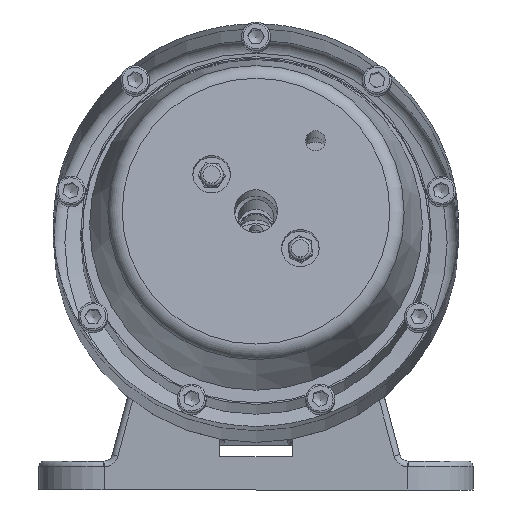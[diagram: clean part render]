
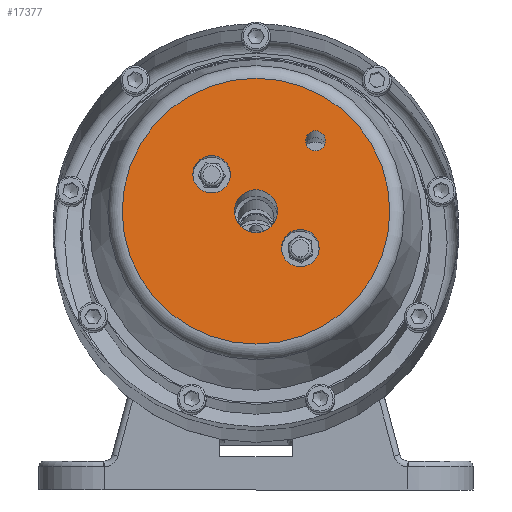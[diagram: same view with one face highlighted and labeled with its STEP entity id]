
A CAD part, front view. The second image highlights one B-rep face of the part: STEP entity #17377.
In plain terms, the highlighted planar face has unit normal (0, -0.993, 0.119).
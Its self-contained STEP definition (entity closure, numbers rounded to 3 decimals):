
#661=FACE_BOUND('',#4759,.T.);
#662=FACE_BOUND('',#4760,.T.);
#663=FACE_BOUND('',#4761,.T.);
#664=FACE_BOUND('',#4762,.T.);
#3301=PLANE('',#18448);
#3828=FACE_OUTER_BOUND('',#4758,.T.);
#4758=EDGE_LOOP('',(#11593,#11594));
#4759=EDGE_LOOP('',(#11595,#11596));
#4760=EDGE_LOOP('',(#11597,#11598));
#4761=EDGE_LOOP('',(#11599,#11600));
#4762=EDGE_LOOP('',(#11601,#11602));
#5780=CIRCLE('',#18335,3.459);
#5781=CIRCLE('',#18336,3.459);
#5784=CIRCLE('',#18341,6.5);
#5785=CIRCLE('',#18342,6.5);
#5800=CIRCLE('',#18362,6.5);
#5801=CIRCLE('',#18363,6.5);
#5840=CIRCLE('',#18421,7.475);
#5841=CIRCLE('',#18422,7.475);
#5861=CIRCLE('',#18445,46.251);
#5862=CIRCLE('',#18446,46.251);
#6926=VERTEX_POINT('',#25892);
#6927=VERTEX_POINT('',#25893);
#6936=VERTEX_POINT('',#25915);
#6937=VERTEX_POINT('',#25916);
#6959=VERTEX_POINT('',#26013);
#6960=VERTEX_POINT('',#26014);
#6999=VERTEX_POINT('',#26123);
#7000=VERTEX_POINT('',#26124);
#7016=VERTEX_POINT('',#26167);
#7017=VERTEX_POINT('',#26168);
#8713=EDGE_CURVE('',#6926,#6927,#5780,.T.);
#8714=EDGE_CURVE('',#6927,#6926,#5781,.T.);
#8724=EDGE_CURVE('',#6936,#6937,#5784,.T.);
#8725=EDGE_CURVE('',#6937,#6936,#5785,.T.);
#8752=EDGE_CURVE('',#6959,#6960,#5800,.T.);
#8753=EDGE_CURVE('',#6960,#6959,#5801,.T.);
#8803=EDGE_CURVE('',#6999,#7000,#5840,.T.);
#8804=EDGE_CURVE('',#7000,#6999,#5841,.T.);
#8827=EDGE_CURVE('',#7016,#7017,#5861,.T.);
#8828=EDGE_CURVE('',#7017,#7016,#5862,.T.);
#11593=ORIENTED_EDGE('',*,*,#8827,.T.);
#11594=ORIENTED_EDGE('',*,*,#8828,.T.);
#11595=ORIENTED_EDGE('',*,*,#8713,.T.);
#11596=ORIENTED_EDGE('',*,*,#8714,.T.);
#11597=ORIENTED_EDGE('',*,*,#8724,.T.);
#11598=ORIENTED_EDGE('',*,*,#8725,.T.);
#11599=ORIENTED_EDGE('',*,*,#8752,.T.);
#11600=ORIENTED_EDGE('',*,*,#8753,.T.);
#11601=ORIENTED_EDGE('',*,*,#8803,.T.);
#11602=ORIENTED_EDGE('',*,*,#8804,.T.);
#17377=ADVANCED_FACE('',(#3828,#661,#662,#663,#664),#3301,.T.);
#18335=AXIS2_PLACEMENT_3D('',#25894,#20507,#20508);
#18336=AXIS2_PLACEMENT_3D('',#25895,#20509,#20510);
#18341=AXIS2_PLACEMENT_3D('',#25917,#20526,#20527);
#18342=AXIS2_PLACEMENT_3D('',#25918,#20528,#20529);
#18362=AXIS2_PLACEMENT_3D('',#26015,#20576,#20577);
#18363=AXIS2_PLACEMENT_3D('',#26016,#20578,#20579);
#18421=AXIS2_PLACEMENT_3D('',#26125,#20705,#20706);
#18422=AXIS2_PLACEMENT_3D('',#26126,#20707,#20708);
#18445=AXIS2_PLACEMENT_3D('',#26169,#20756,#20757);
#18446=AXIS2_PLACEMENT_3D('',#26170,#20758,#20759);
#18448=AXIS2_PLACEMENT_3D('',#26172,#20762,#20763);
#20507=DIRECTION('center_axis',(0.,0.993,
-0.119));
#20508=DIRECTION('ref_axis',(0.766,-0.077,-0.638));
#20509=DIRECTION('center_axis',(0.,0.993,
-0.119));
#20510=DIRECTION('ref_axis',(0.766,-0.077,-0.638));
#20526=DIRECTION('center_axis',(0.,0.993,
-0.119));
#20527=DIRECTION('ref_axis',(-0.766,0.077,0.638));
#20528=DIRECTION('center_axis',(0.,0.993,
-0.119));
#20529=DIRECTION('ref_axis',(-0.766,0.077,0.638));
#20576=DIRECTION('center_axis',(0.,0.993,
-0.119));
#20577=DIRECTION('ref_axis',(0.766,-0.077,-0.638));
#20578=DIRECTION('center_axis',(0.,0.993,
-0.119));
#20579=DIRECTION('ref_axis',(0.766,-0.077,-0.638));
#20705=DIRECTION('center_axis',(0.,0.993,
-0.119));
#20706=DIRECTION('ref_axis',(0.766,-0.077,-0.638));
#20707=DIRECTION('center_axis',(0.,0.993,
-0.119));
#20708=DIRECTION('ref_axis',(0.766,-0.077,-0.638));
#20756=DIRECTION('center_axis',(0.,-0.993,
0.119));
#20757=DIRECTION('ref_axis',(0.643,0.091,0.761));
#20758=DIRECTION('center_axis',(0.,-0.993,
0.119));
#20759=DIRECTION('ref_axis',(0.643,0.091,0.761));
#20762=DIRECTION('center_axis',(0.,-0.993,
0.119));
#20763=DIRECTION('ref_axis',(0.766,-0.077,-0.638));
#25892=CARTESIAN_POINT('',(23.219,-159.147,118.825));
#25893=CARTESIAN_POINT('',(17.92,-158.617,123.239));
#25894=CARTESIAN_POINT('Origin',(20.569,-158.882,121.032));
#25895=CARTESIAN_POINT('Origin',(20.569,-158.882,121.032));
#25915=CARTESIAN_POINT('',(10.342,-162.841,88.078));
#25916=CARTESIAN_POINT('',(20.3,-163.838,79.781));
#25917=CARTESIAN_POINT('Origin',(15.321,-163.34,83.929));
#25918=CARTESIAN_POINT('Origin',(15.321,-163.34,83.929));
#26013=CARTESIAN_POINT('',(-10.342,-160.771,105.309));
#26014=CARTESIAN_POINT('',(-20.3,-159.774,113.606));
#26015=CARTESIAN_POINT('Origin',(-15.321,-160.273,109.457));
#26016=CARTESIAN_POINT('Origin',(-15.321,-160.273,109.457));
#26123=CARTESIAN_POINT('',(5.726,-162.379,91.923));
#26124=CARTESIAN_POINT('',(-5.726,-161.233,101.464));
#26125=CARTESIAN_POINT('Origin',(0.,-161.806,
96.693));
#26126=CARTESIAN_POINT('Origin',(0.,-161.806,
96.693));
#26167=CARTESIAN_POINT('',(29.73,-157.58,131.871));
#26168=CARTESIAN_POINT('',(-35.431,-158.26,126.211));
#26169=CARTESIAN_POINT('Origin',(0.,-161.806,
96.693));
#26170=CARTESIAN_POINT('Origin',(0.,-161.806,
96.693));
#26172=CARTESIAN_POINT('Origin',(14.865,-159.693,114.282));
